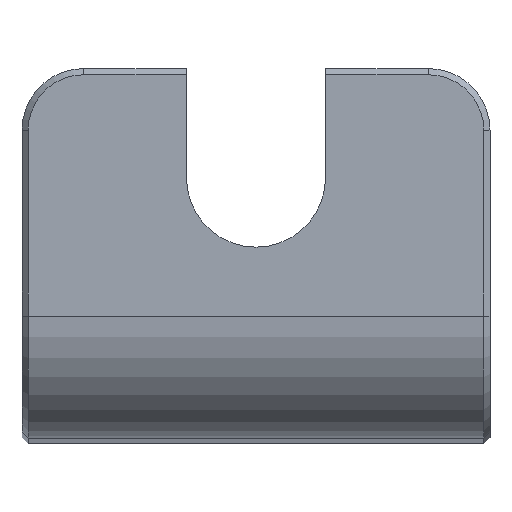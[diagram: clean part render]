
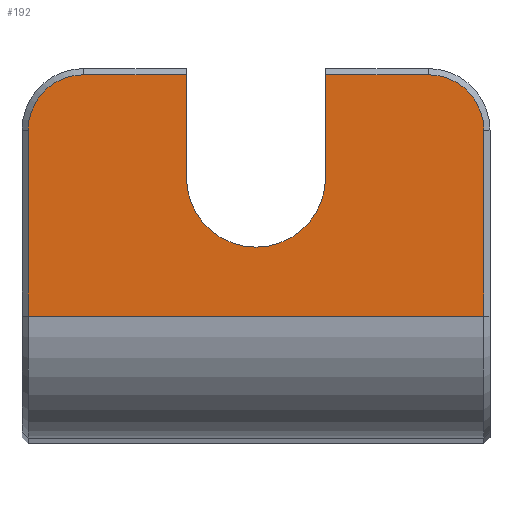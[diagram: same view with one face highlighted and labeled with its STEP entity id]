
A CAD part, top view. The second image highlights one B-rep face of the part: STEP entity #192.
In plain terms, the highlighted planar face has unit normal (0, 0, 1).
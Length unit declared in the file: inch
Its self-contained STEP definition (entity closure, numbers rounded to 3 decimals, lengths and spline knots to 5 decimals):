
#17 = CARTESIAN_POINT ( 'NONE',  ( 0.005, 0.099, 0. ) ) ;
#21 = VECTOR ( 'NONE', #156, 39.37008 ) ;
#32 = CARTESIAN_POINT ( 'NONE',  ( 0.38, 0.099, 0. ) ) ;
#42 = DIRECTION ( 'NONE',  ( -1., 0., 0. ) ) ;
#43 = DIRECTION ( 'NONE',  ( 0., -1., 0. ) ) ;
#47 = VECTOR ( 'NONE', #43, 39.37008 ) ;
#72 = AXIS2_PLACEMENT_3D ( 'NONE', #307, #549, #465 ) ;
#97 = CARTESIAN_POINT ( 'NONE',  ( 0.05, 0.25, 0. ) ) ;
#102 = DIRECTION ( 'NONE',  ( 0., 0., 1. ) ) ;
#103 = LINE ( 'NONE', #367, #953 ) ;
#113 = DIRECTION ( 'NONE',  ( 1., 0., 0. ) ) ;
#114 = LINE ( 'NONE', #700, #322 ) ;
#137 = ORIENTED_EDGE ( 'NONE', *, *, #1026, .F. ) ;
#139 = CARTESIAN_POINT ( 'NONE',  ( 0.005, 0.25, 0. ) ) ;
#156 = DIRECTION ( 'NONE',  ( 0., 1., 0. ) ) ;
#170 = FACE_OUTER_BOUND ( 'NONE', #710, .T. ) ;
#176 = ORIENTED_EDGE ( 'NONE', *, *, #863, .T. ) ;
#191 = EDGE_CURVE ( 'NONE', #274, #646, #407, .T. ) ;
#192 = ADVANCED_FACE ( 'NONE', ( #170 ), #1029, .F. ) ;
#194 = DIRECTION ( 'NONE',  ( 0., 1., 0. ) ) ;
#206 = DIRECTION ( 'NONE',  ( -1., 0., 0. ) ) ;
#209 = EDGE_CURVE ( 'NONE', #408, #907, #928, .T. ) ;
#210 = CARTESIAN_POINT ( 'NONE',  ( 0.1335, 0.2115, 0. ) ) ;
#211 = CARTESIAN_POINT ( 'NONE',  ( 0.19, 0.2115, 0. ) ) ;
#222 = DIRECTION ( 'NONE',  ( 0., 0., 1. ) ) ;
#226 = CARTESIAN_POINT ( 'NONE',  ( 0.38, 0.099, 0. ) ) ;
#240 = AXIS2_PLACEMENT_3D ( 'NONE', #226, #948, #42 ) ;
#253 = EDGE_CURVE ( 'NONE', #622, #907, #1036, .T. ) ;
#274 = VERTEX_POINT ( 'NONE', #384 ) ;
#277 = ORIENTED_EDGE ( 'NONE', *, *, #827, .T. ) ;
#291 = EDGE_CURVE ( 'NONE', #637, #303, #804, .T. ) ;
#294 = LINE ( 'NONE', #970, #21 ) ;
#299 = ORIENTED_EDGE ( 'NONE', *, *, #191, .T. ) ;
#302 = CARTESIAN_POINT ( 'NONE',  ( 0.2465, 0.295, 0. ) ) ;
#303 = VERTEX_POINT ( 'NONE', #728 ) ;
#307 = CARTESIAN_POINT ( 'NONE',  ( 0.33, 0.25, 0. ) ) ;
#322 = VECTOR ( 'NONE', #194, 39.37008 ) ;
#367 = CARTESIAN_POINT ( 'NONE',  ( 0.38, 0.295, 0. ) ) ;
#384 = CARTESIAN_POINT ( 'NONE',  ( 0.375, 0.25, 0. ) ) ;
#407 = CIRCLE ( 'NONE', #72, 0.045 ) ;
#408 = VERTEX_POINT ( 'NONE', #139 ) ;
#427 = ORIENTED_EDGE ( 'NONE', *, *, #667, .T. ) ;
#465 = DIRECTION ( 'NONE',  ( -1., 0., 0. ) ) ;
#488 = EDGE_CURVE ( 'NONE', #303, #558, #581, .T. ) ;
#533 = ORIENTED_EDGE ( 'NONE', *, *, #488, .F. ) ;
#549 = DIRECTION ( 'NONE',  ( 0., 0., 1. ) ) ;
#558 = VERTEX_POINT ( 'NONE', #978 ) ;
#577 = CARTESIAN_POINT ( 'NONE',  ( 0.38, 0.295, 0. ) ) ;
#581 = CIRCLE ( 'NONE', #740, 0.0565 ) ;
#588 = AXIS2_PLACEMENT_3D ( 'NONE', #97, #102, #599 ) ;
#599 = DIRECTION ( 'NONE',  ( -1., 0., 0. ) ) ;
#622 = VERTEX_POINT ( 'NONE', #1050 ) ;
#623 = EDGE_CURVE ( 'NONE', #637, #1034, #984, .T. ) ;
#626 = CARTESIAN_POINT ( 'NONE',  ( 0.05, 0.295, 0. ) ) ;
#637 = VERTEX_POINT ( 'NONE', #660 ) ;
#646 = VERTEX_POINT ( 'NONE', #807 ) ;
#660 = CARTESIAN_POINT ( 'NONE',  ( 0.1335, 0.295, 0. ) ) ;
#667 = EDGE_CURVE ( 'NONE', #622, #274, #294, .T. ) ;
#683 = DIRECTION ( 'NONE',  ( -1., 0., 0. ) ) ;
#700 = CARTESIAN_POINT ( 'NONE',  ( 0.2465, 0.2115, 0. ) ) ;
#704 = ORIENTED_EDGE ( 'NONE', *, *, #291, .F. ) ;
#710 = EDGE_LOOP ( 'NONE', ( #704, #919, #277, #735, #871, #427, #299, #176, #137, #533 ) ) ;
#719 = VECTOR ( 'NONE', #206, 39.37008 ) ;
#726 = DIRECTION ( 'NONE',  ( -1., 0., 0. ) ) ;
#728 = CARTESIAN_POINT ( 'NONE',  ( 0.1335, 0.2115, 0. ) ) ;
#735 = ORIENTED_EDGE ( 'NONE', *, *, #209, .T. ) ;
#740 = AXIS2_PLACEMENT_3D ( 'NONE', #211, #222, #113 ) ;
#783 = CARTESIAN_POINT ( 'NONE',  ( 0.005, 0.099, 0. ) ) ;
#804 = LINE ( 'NONE', #210, #47 ) ;
#807 = CARTESIAN_POINT ( 'NONE',  ( 0.33, 0.295, 0. ) ) ;
#827 = EDGE_CURVE ( 'NONE', #1034, #408, #890, .T. ) ;
#863 = EDGE_CURVE ( 'NONE', #646, #1019, #103, .T. ) ;
#871 = ORIENTED_EDGE ( 'NONE', *, *, #253, .F. ) ;
#890 = CIRCLE ( 'NONE', #588, 0.045 ) ;
#907 = VERTEX_POINT ( 'NONE', #17 ) ;
#919 = ORIENTED_EDGE ( 'NONE', *, *, #623, .T. ) ;
#928 = LINE ( 'NONE', #783, #1018 ) ;
#948 = DIRECTION ( 'NONE',  ( 0., 0., -1. ) ) ;
#953 = VECTOR ( 'NONE', #683, 39.37008 ) ;
#970 = CARTESIAN_POINT ( 'NONE',  ( 0.375, 0.099, 0. ) ) ;
#978 = CARTESIAN_POINT ( 'NONE',  ( 0.2465, 0.2115, 0. ) ) ;
#984 = LINE ( 'NONE', #577, #1058 ) ;
#1018 = VECTOR ( 'NONE', #1025, 39.37008 ) ;
#1019 = VERTEX_POINT ( 'NONE', #302 ) ;
#1025 = DIRECTION ( 'NONE',  ( 0., -1., 0. ) ) ;
#1026 = EDGE_CURVE ( 'NONE', #558, #1019, #114, .T. ) ;
#1029 = PLANE ( 'NONE',  #240 ) ;
#1034 = VERTEX_POINT ( 'NONE', #626 ) ;
#1036 = LINE ( 'NONE', #32, #719 ) ;
#1050 = CARTESIAN_POINT ( 'NONE',  ( 0.375, 0.099, 0. ) ) ;
#1058 = VECTOR ( 'NONE', #726, 39.37008 ) ;
